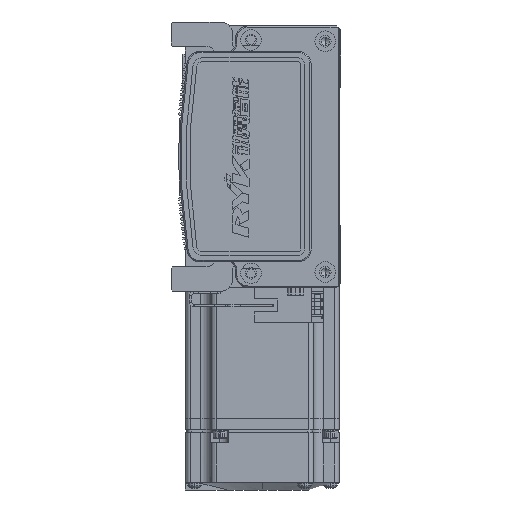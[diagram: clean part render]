
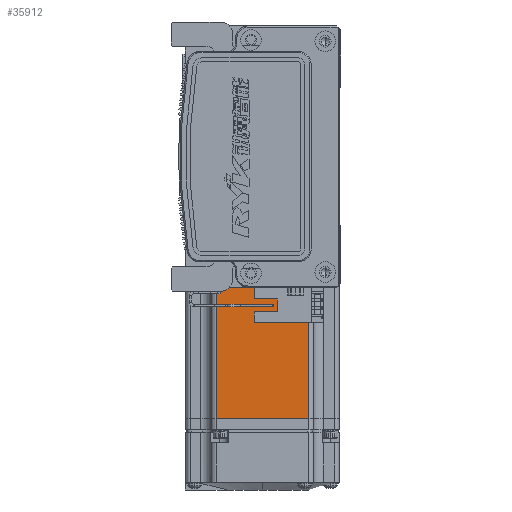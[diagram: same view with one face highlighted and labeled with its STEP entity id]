
A CAD part, left-side view. The second image highlights one B-rep face of the part: STEP entity #35912.
In plain terms, the highlighted planar face has unit normal (-1, 0, 0) as drawn and (0, 0, 1) by its records, which use the part's own axes.
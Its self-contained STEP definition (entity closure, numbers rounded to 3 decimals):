
#779 = LINE ( 'NONE', #42840, #14300 ) ;
#2184 = FACE_OUTER_BOUND ( 'NONE', #47496, .T. ) ;
#2192 = CARTESIAN_POINT ( 'NONE',  ( -70.95, 0., 30. ) ) ;
#3023 = DIRECTION ( 'NONE',  ( 1., 0., 0. ) ) ;
#3069 = CARTESIAN_POINT ( 'NONE',  ( -70.95, 18., 30. ) ) ;
#3483 = DIRECTION ( 'NONE',  ( 0., 0., 1. ) ) ;
#8174 = VERTEX_POINT ( 'NONE', #38171 ) ;
#8634 = ORIENTED_EDGE ( 'NONE', *, *, #22526, .T. ) ;
#10361 = EDGE_CURVE ( 'NONE', #65668, #17579, #52820, .T. ) ;
#11100 = DIRECTION ( 'NONE',  ( 0., -1., 0. ) ) ;
#13122 = CARTESIAN_POINT ( 'NONE',  ( -6.5, -18., 30. ) ) ;
#13742 = VECTOR ( 'NONE', #58189, 1000. ) ;
#14300 = VECTOR ( 'NONE', #11100, 1000. ) ;
#17579 = VERTEX_POINT ( 'NONE', #49362 ) ;
#20173 = EDGE_CURVE ( 'NONE', #22907, #17579, #53032, .T. ) ;
#21185 = CARTESIAN_POINT ( 'NONE',  ( -6.5, 18., 30. ) ) ;
#22526 = EDGE_CURVE ( 'NONE', #8174, #65668, #25624, .T. ) ;
#22907 = VERTEX_POINT ( 'NONE', #49451 ) ;
#25624 = LINE ( 'NONE', #21185, #13742 ) ;
#29347 = DIRECTION ( 'NONE',  ( 0., -1., 0. ) ) ;
#35912 = ADVANCED_FACE ( 'NONE', ( #2184 ), #50174, .T. ) ;
#38171 = CARTESIAN_POINT ( 'NONE',  ( -7.75, 18., 30. ) ) ;
#40900 = VECTOR ( 'NONE', #29347, 1000. ) ;
#42840 = CARTESIAN_POINT ( 'NONE',  ( -7.75, 0., 30. ) ) ;
#43692 = VECTOR ( 'NONE', #58126, 1000. ) ;
#47496 = EDGE_LOOP ( 'NONE', ( #47762, #8634, #65594, #66762 ) ) ;
#47688 = AXIS2_PLACEMENT_3D ( 'NONE', #66874, #3483, #3023 ) ;
#47762 = ORIENTED_EDGE ( 'NONE', *, *, #47997, .F. ) ;
#47997 = EDGE_CURVE ( 'NONE', #8174, #22907, #779, .T. ) ;
#49362 = CARTESIAN_POINT ( 'NONE',  ( -70.95, -18., 30. ) ) ;
#49451 = CARTESIAN_POINT ( 'NONE',  ( -7.75, -18., 30. ) ) ;
#50174 = PLANE ( 'NONE',  #47688 ) ;
#52820 = LINE ( 'NONE', #2192, #40900 ) ;
#53032 = LINE ( 'NONE', #13122, #43692 ) ;
#58126 = DIRECTION ( 'NONE',  ( -1., 0., 0. ) ) ;
#58189 = DIRECTION ( 'NONE',  ( -1., 0., 0. ) ) ;
#65594 = ORIENTED_EDGE ( 'NONE', *, *, #10361, .T. ) ;
#65668 = VERTEX_POINT ( 'NONE', #3069 ) ;
#66762 = ORIENTED_EDGE ( 'NONE', *, *, #20173, .F. ) ;
#66874 = CARTESIAN_POINT ( 'NONE',  ( -6.5, -25., 30. ) ) ;
